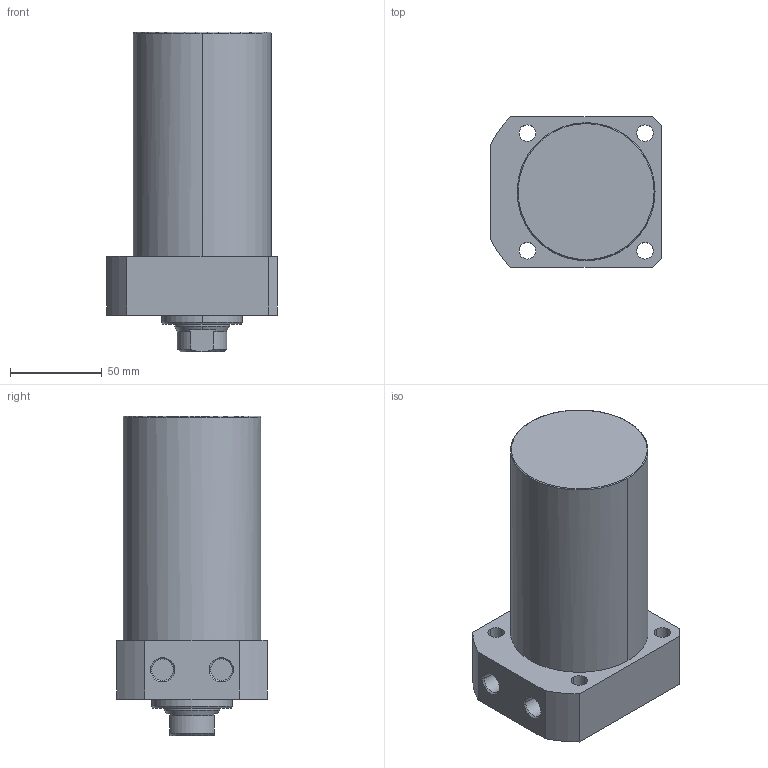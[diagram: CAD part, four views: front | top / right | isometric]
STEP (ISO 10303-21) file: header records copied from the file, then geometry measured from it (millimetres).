
FILE_DESCRIPTION((' '),'2;1');
FILE_NAME( 'TLLR-075CA-085.STEP.stp', '2025-10-24T16:35:05', (' '), ('--- Datakit www.datakit.com---'), ' Datakit CrossCadWare V2024.1 Dec 21 2023', 'Mastercam 2025', ' ');
FILE_SCHEMA(('AUTOMOTIVE_DESIGN { 1 0 10303 214 1 1 1 1 }'));
Length unit declared in the file: millimetre
Products named in the file (1): TLLR-075CA-085
Bounding box: 93 x 82 x 174 mm (x, y, z)
Volume: 774079.7 mm3; surface area: 62406.8 mm2
Topology: 1 solids, 1 shells, 63 faces, 177 edges, 122 vertices
Faces by surface type: cylinder 28, plane 19, cone 14, torus 2
Entity records: 2168 total; most frequent: CARTESIAN_POINT 405, DIRECTION 400, ORIENTED_EDGE 350, EDGE_CURVE 175, AXIS2_PLACEMENT_3D 169, VERTEX_POINT 122, CIRCLE 105, EDGE_LOOP 79
